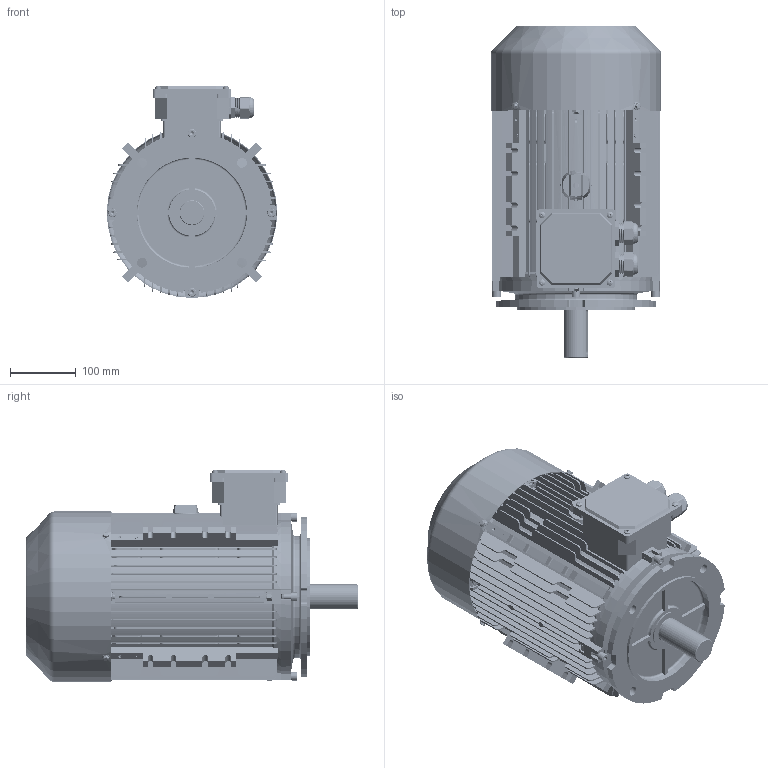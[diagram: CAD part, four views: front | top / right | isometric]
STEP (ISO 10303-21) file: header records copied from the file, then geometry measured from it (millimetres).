
FILE_DESCRIPTION (( 'STEP AP203' ), '1' );
FILE_NAME ('ME3-132M B5R 3D.STEP', '2024-07-27T01:59:24', ( 'User' ), ( 'China' ), 'SwSTEP 2.0', 'SolidWorks 2018', '' );
FILE_SCHEMA (( 'CONFIG_CONTROL_DESIGN' ));
Length unit declared in the file: millimetre
Products named in the file (18): ME3-132瑞欶; ME3-132M蛌粣; hex flange bolts-heavy grade b gb_GB_FASTENER_BOLT_HFBB M5X10-S; MS112-132 諉盄碟釱; MS112-132諉盄碟裔; M24 蹟杶; cross recessed pan head screws gb_GB_CROSS_SCREWS_TYPE1 M5X6-6  H type-S; M24 蹟杶簸; 40X58X7蚐猾; spring lock washers--normal type gb_GB_FASTENER_WASHER_SW 8; ME3-132B5R傷裔; hexagon socket head cap screws gb_GB_FASTENER_SCREWS_HSHCS M8X30-S; ME3-132M儂褲; ME3-132M B5R  3D; hexagon socket head cap screws gb_GB_FASTENER_SCREWS_HSHCS M8X40-S; ME3-132 B3傷裔; hex nuts-style normal-grades ab gb_GB_HEXAGON_TYPE10 M8X1-S; deep groove ball bearings gb_Rolling bearings 6308 GB 276-94
Assembly tree (41 placements, depth 2):
  ME3-132M B5R  3D
    ME3-132M儂褲
    ME3-132 B3傷裔
    deep groove ball bearings gb_Rolling bearings 6308 GB 276-94  x2
    ME3-132M蛌粣
    MS112-132 諉盄碟釱
    M24 蹟杶  x2
    M24 蹟杶簸  x2
    spring lock washers--normal type gb_GB_FASTENER_WASHER_SW 8  x4
    hexagon socket head cap screws gb_GB_FASTENER_SCREWS_HSHCS M8X30-S
    hexagon socket head cap screws gb_GB_FASTENER_SCREWS_HSHCS M8X40-S  x7
    hex nuts-style normal-grades ab gb_GB_HEXAGON_TYPE10 M8X1-S  x7
    ME3-132瑞欶
    hex flange bolts-heavy grade b gb_GB_FASTENER_BOLT_HFBB M5X10-S  x4
    MS112-132諉盄碟裔
    cross recessed pan head screws gb_GB_CROSS_SCREWS_TYPE1 M5X6-6  H type-S  x4
    40X58X7蚐猾
    ME3-132B5R傷裔
Bounding box: 259.6 x 505.15 x 322.8 mm (x, y, z)
Volume: 3762609.4 mm3; surface area: 1816182.5 mm2
Topology: 42 solids, 43 shells, 6418 faces, 16115 edges, 9744 vertices
Faces by surface type: plane 2218, cone 2093, cylinder 1761, torus 232, sphere 68, bspline 46
Entity records: 133596 total; most frequent: CARTESIAN_POINT 34358, ORIENTED_EDGE 20866, DIRECTION 19339, EDGE_CURVE 10433, VERTEX_POINT 6664, VECTOR 6491, LINE 6491, AXIS2_PLACEMENT_3D 6424
